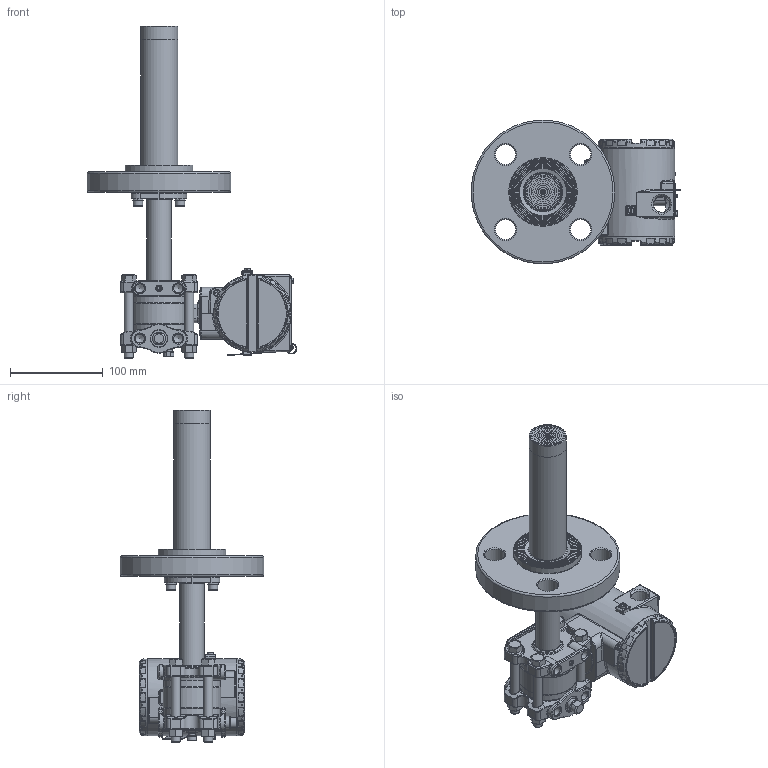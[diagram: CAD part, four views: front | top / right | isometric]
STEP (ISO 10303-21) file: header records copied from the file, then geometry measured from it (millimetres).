
FILE_DESCRIPTION(/* description */ (''),/* implementation_level */ '2;1');
FILE_NAME(/* name */ 'F:\Area\Desenvolvimento_2\Projects\Sensor\projetos\LD30X\montagens 3d - clientes\SELO NIVEL\LD30XL 1-1-2-600 RF ext 150 ref 1-4NPT purga acima.stp',/* time_stamp */ '2023-02-10T15:07:15-03:00',/* author */ ('inventor02'),/* organization */ (''),/* preprocessor_version */ 'ST-DEVELOPER v17',/* originating_system */ 'Autodesk Inventor 2019',/* authorisation */ '');
FILE_SCHEMA (('CONFIG_CONTROL_DESIGN'));
Products named in the file (41): LD30XL 1-1-2-600 RF ext 150 ref 1-4NPT purga acima; 204-0301-L-1-1-2 600 RF ext 150 purga acima; nivel fx3 com baixa diferencial 1-4NPT purga acima; involucro fx0-3 apos a usinagem final; flange diferencial std purga; 101-C-7484-01 flange selo nivel VR; 201-A-0504-tubo união teste 1; bujao 1-4NPT; Sangria; Porca 3-8 x 16 UNC; Paraf. 3-8 x 16 UNC; adaptação tubo x flanges 1-1-2 a 4pol; 101-B-0161-anel cortado do tubo - teste1; 101-B-0162-flange fixação tubo; ANSI B18.3.1M - M6x1 x 16; DIN 127 - A 6; flange 1-1-2 600 ext 150; 101-B-7699-01 ext 1-1-2-150; 101-B-5190-03; 101-C-3332-02; carcaça vazia com tampas e plaqueta; carcaça LD inox sem letras; Subconjunto plaqueta 300; Plaqueta transmissor; Parafuso da Plaqueta; Rebite da Plaqueta; 096-A-0169-03; 101-A-0502-01; Chapa aterramento externo; ISO 1207 - M4 x 8; DIN 915 - M6 x 10; ANSI B18.3.1M - M4x0,7 x 8; Subconjunto tampa com visor aluminio; tampa pintada; VIDRO DO VISOR; oring 41x1 vidro tampa; Trava do vidro da tampa com visor; trava do vidro VH256; Subconjunto tampa sem visor-aluminio; tampa cega 300 pintada p0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
Assembly tree (51 placements, depth 4):
  LD30XL 1-1-2-600 RF ext 150 ref 1-4NPT purga acima
    204-0301-L-1-1-2 600 RF ext 150 purga acima
      nivel fx3 com baixa diferencial 1-4NPT purga acima
        involucro fx0-3 apos a usinagem final
        flange diferencial std purga
        101-C-7484-01 flange selo nivel VR
        201-A-0504-tubo união teste 1
        DIN 915 - M6 x 10
        bujao 1-4NPT
        Sangria
        Porca 3-8 x 16 UNC  x4
        Paraf. 3-8 x 16 UNC  x4
      adaptação tubo x flanges 1-1-2 a 4pol
        101-B-0161-anel cortado do tubo - teste1
        101-B-0162-flange fixação tubo
        ANSI B18.3.1M - M6x1 x 16  x2
        DIN 127 - A 6  x2
      flange 1-1-2 600 ext 150
        101-B-7699-01 ext 1-1-2-150
        101-B-5190-03
        101-C-3332-02
    carcaça vazia com tampas e plaqueta
      carcaça LD inox sem letras
      Subconjunto plaqueta 300
        Plaqueta transmissor
        Parafuso da Plaqueta
        Rebite da Plaqueta
        096-A-0169-03
        101-A-0502-01
      Chapa aterramento externo
      ISO 1207 - M4 x 8
      DIN 915 - M6 x 10
      ANSI B18.3.1M - M4x0,7 x 8  x2
      Subconjunto tampa com visor aluminio
        tampa pintada
        VIDRO DO VISOR
        oring 41x1 vidro tampa
        Trava do vidro da tampa com visor
        trava do vidro VH256
        00034775-0
      Subconjunto tampa sem visor-aluminio
        tampa cega 300 pintada p0
        00034775-0
Bounding box: 225.49 x 154.41 x 357.6 mm (x, y, z)
Volume: 1083073.1 mm3; surface area: 346573.7 mm2
Topology: 43 solids, 43 shells, 2726 faces, 6537 edges, 3867 vertices
Faces by surface type: bspline 667, cylinder 656, plane 560, torus 469, cone 248, sphere 126
Full cylindrical faces by diameter (mm): 2 x4, 2.1 x2, 2.459 x5, 2.5 x1, 2.642 x1, 2.7 x1, 2.8 x1, 3 x4, 3.242 x4, 3.5 x5, 3.571 x1, 4 x5, 4.3 x1, 4.4 x1, 4.917 x4, 5 x1, 5.5 x3, 6 x6, 6.647 x1, 7 x7, 7.087 x2, 7.6 x2, 7.798 x4, 8 x1, 8.7 x2, 9.525 x4, 9.728 x6, 10 x2, 10.5 x8, 10.719 x2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
Entity records: 94293 total; most frequent: CARTESIAN_POINT 34605, DIRECTION 12303, ORIENTED_EDGE 12254, EDGE_CURVE 6127, AXIS2_PLACEMENT_3D 5430, VERTEX_POINT 3673, CIRCLE 3215, EDGE_LOOP 2766
